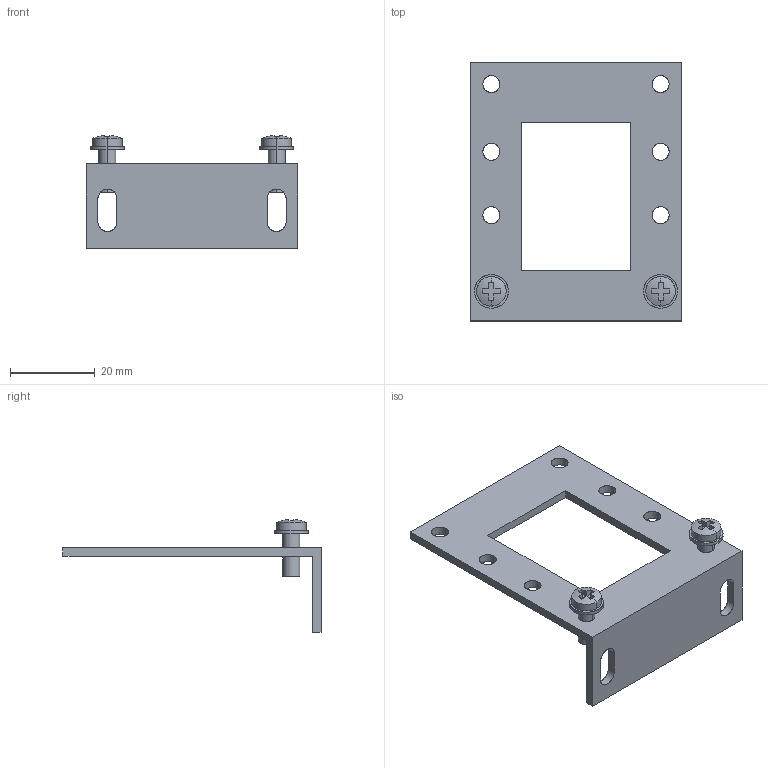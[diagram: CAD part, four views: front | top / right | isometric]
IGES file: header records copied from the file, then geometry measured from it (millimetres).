
Start section: SolidWorks IGES file using analytic representation for surfaces
Global section: file name: C:\catalog\MS-RF23.IGS; native system: SolidWorks 2005 by SolidWorks Corporation; preprocessor: SolidWorks 2005 by SolidWorks Corporation; author: yk0651; date: 070713.182452; units: millimetre
Bounding box: 50 x 61 x 26.66 mm (x, y, z)
Surface area: 7404.8 mm2 (no closed solid volume)
Topology: 0 solids, 0 shells, 86 faces, 1412 edges, 1412 vertices
Faces by surface type: bspline 48, revolution 38
